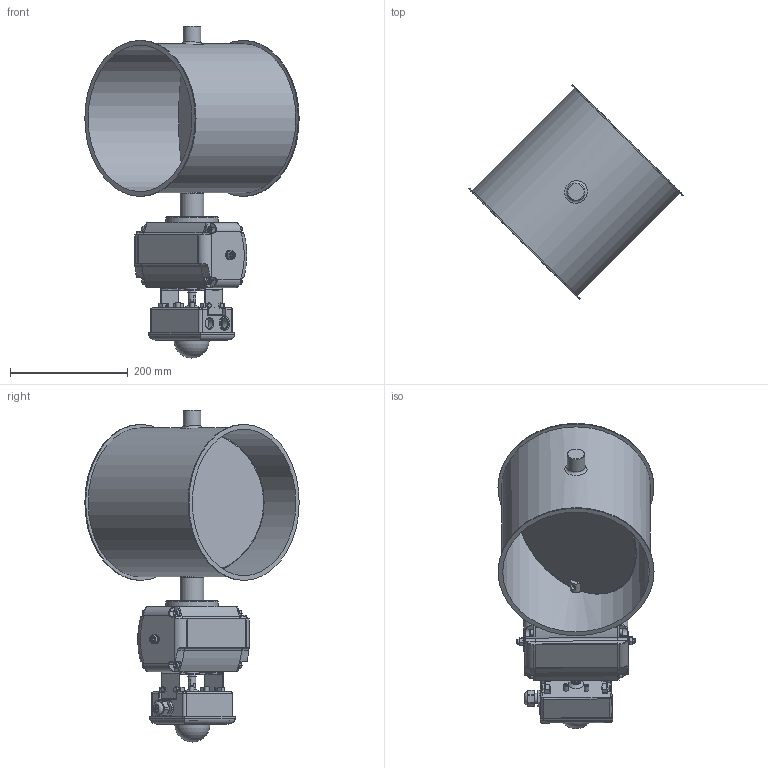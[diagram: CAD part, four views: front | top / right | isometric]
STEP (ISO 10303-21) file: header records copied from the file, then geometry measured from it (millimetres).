
FILE_DESCRIPTION((''),'2;1');
FILE_NAME('U:\Wolfgang\Marcel-3D\fertig\Kapitel 8\2521213.stp','2012-01-13T11:14:06',('iwienholt'),(''),'Autodesk Inventor 2010','Autodesk Inventor 2010','');
FILE_SCHEMA(('AUTOMOTIVE_DESIGN { 1 0 10303 214 1 1 1 1 }'));
Length unit declared in the file: millimetre
Products named in the file (21): 2521213; Bolzen D20; Scheibe250b; 2521211-1; Antrieb Flowserve D20; Pneumatischer SchwenkantriebS85D-2; Body; roter Verschluss; A1 Schwenkantrieb S85D; Body S085D; DIN EN ISO 4018 M5x10; DIN 125-1 A A 13; End Cap L85; End Cap R85; DIN 125-1 A A 8,4; DIN 916 M8  x  40; DIN 555 - ersetzt durch DIN EN 24034 M8; DIN EN ISO 4762 M6 x 12; Halterung; Deckel2; BuchseD20 90-50
Assembly tree (40 placements, depth 5):
  2521213
    Bolzen D20  x2
    Scheibe250b
    2521211-1
    Antrieb Flowserve D20
      Pneumatischer SchwenkantriebS85D-2
        Body
        roter Verschluss
        A1 Schwenkantrieb S85D
          Body S085D
          DIN EN ISO 4018 M5x10  x4
          DIN 125-1 A A 13  x2
          End Cap L85
          End Cap R85
          DIN 125-1 A A 8,4  x2
          DIN 916 M8  x  40  x2
          DIN 555 - ersetzt durch DIN EN 24034 M8  x2
          DIN EN ISO 4762 M6 x 12  x8
        Halterung  x2
        DIN EN ISO 4018 M5x10  x4
        Deckel2
      BuchseD20 90-50
Bounding box: 364.17 x 364.15 x 564 mm (x, y, z)
Volume: 2901921.3 mm3; surface area: 811097.6 mm2
Topology: 39 solids, 39 shells, 886 faces, 2067 edges, 1312 vertices
Faces by surface type: plane 448, cylinder 195, cone 104, bspline 100, torus 38, sphere 1
Full cylindrical faces by diameter (mm): 3.242 x4, 5 x10, 6 x12, 6.647 x4, 8 x6, 8.376 x1, 8.4 x2, 10 x10, 11.9 x2, 12.5 x1, 13 x5, 14 x1, 16 x2, 17 x1, 17.79 x2, 18 x3, 20 x4, 20.5 x1, 22 x1, 24 x3, 28.5 x1, 30 x3, 40 x3, 90 x1, 249 x2, 253 x1, 265 x2
Entity records: 19125 total; most frequent: CARTESIAN_POINT 5407, DIRECTION 2734, ORIENTED_EDGE 2444, EDGE_CURVE 1222, AXIS2_PLACEMENT_3D 1059, VERTEX_POINT 852, EDGE_LOOP 832, VECTOR 616
